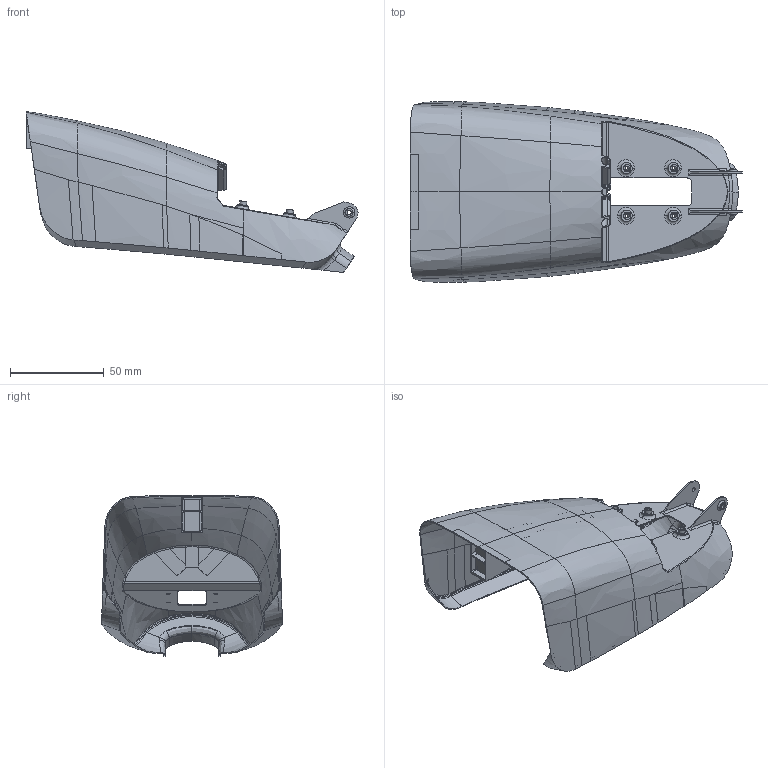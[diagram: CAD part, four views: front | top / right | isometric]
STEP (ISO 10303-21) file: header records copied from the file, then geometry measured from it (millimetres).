
FILE_DESCRIPTION((''),'2;1');
FILE_NAME('JCZ_FPV_3','2025-05-27T',('Administrator'),(''),'PRO/ENGINEER BY PARAMETRIC TECHNOLOGY CORPORATION, 2015240','PRO/ENGINEER BY PARAMETRIC TECHNOLOGY CORPORATION, 2015240','');
FILE_SCHEMA(('CONFIG_CONTROL_DESIGN'));
Length unit declared in the file: millimetre
Products named in the file (1): JCZ_FPV_3
Bounding box: 177.45 x 96.55 x 85.87 mm (x, y, z)
Volume: 21182.7 mm3; surface area: 67513.8 mm2
Topology: 1 solids, 1 shells, 641 faces, 1601 edges, 968 vertices
Faces by surface type: bspline 391, plane 115, cylinder 98, torus 16, extrusion 9, sphere 6, cone 6
Entity records: 30837 total; most frequent: CARTESIAN_POINT 18491, ORIENTED_EDGE 3194, EDGE_CURVE 1597, DIRECTION 1493, VERTEX_POINT 968, B_SPLINE_CURVE_WITH_KNOTS 881, EDGE_LOOP 665, FACE_OUTER_BOUND 641
